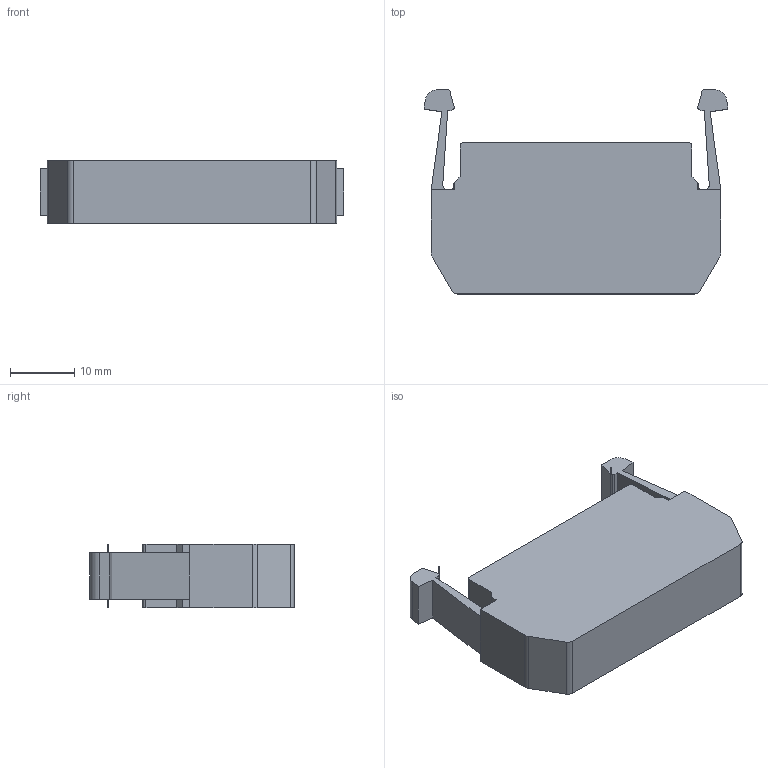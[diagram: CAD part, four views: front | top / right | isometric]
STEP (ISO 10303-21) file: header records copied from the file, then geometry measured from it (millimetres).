
FILE_DESCRIPTION (( 'STEP AP203' ), '1' );
FILE_NAME ('B3T.STEP', '2012-09-05T10:32:36', ( 'schulung' ), ( 'Microsoft' ), 'SwSTEP 2.0', 'SolidWorks 2012', '' );
FILE_SCHEMA (( 'CONFIG_CONTROL_DESIGN' ));
Length unit declared in the file: millimetre
Products named in the file (1): B3T
Bounding box: 47.2 x 31.7 x 9.9 mm (x, y, z)
Volume: 10054.9 mm3; surface area: 3857.6 mm2
Topology: 1 solids, 1 shells, 70 faces, 196 edges, 128 vertices
Faces by surface type: plane 52, cylinder 18
Entity records: 2313 total; most frequent: CARTESIAN_POINT 395, ORIENTED_EDGE 392, DIRECTION 378, EDGE_CURVE 196, VECTOR 156, LINE 156, VERTEX_POINT 128, AXIS2_PLACEMENT_3D 111
